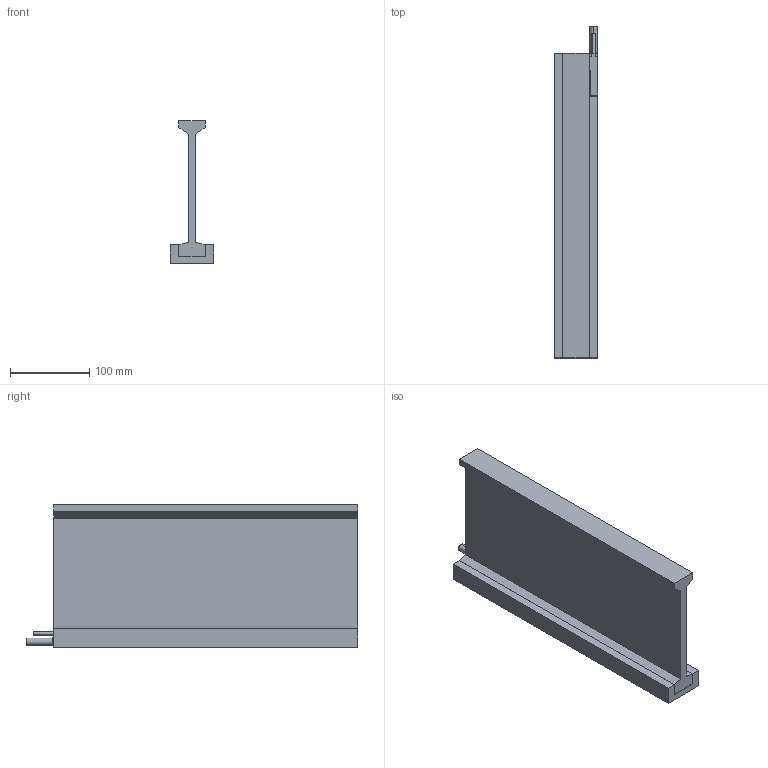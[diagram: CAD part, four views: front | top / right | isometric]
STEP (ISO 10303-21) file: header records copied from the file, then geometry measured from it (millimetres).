
FILE_DESCRIPTION (( 'STEP AP214' ), '1' );
FILE_NAME ('DX140F-C6.STEP', '2021-07-16T04:29:26', ( '' ), ( '' ), 'SwSTEP 2.0', 'SolidWorks 2020', '' );
FILE_SCHEMA (( 'AUTOMOTIVE_DESIGN' ));
Length unit declared in the file: millimetre
Products named in the file (6): DX140FCX01_C6 (CUSTOMER); HEX SHCS M3x0.5x12(S.S)_B18.3.1M - 3 x 0.5 x 12 Hex SHCS -- 12CHX; TIM-PC 8850FT-LV (DX140F)_C6; CBL_PWR_D10; DX140F-C6; DX140FH-X.X-ZZ-00 (CUSTOMER)
Assembly tree (6 placements, depth 2):
  DX140F-C6
    TIM-PC 8850FT-LV (DX140F)_C6
    DX140FCX01_C6 (CUSTOMER)
    HEX SHCS M3x0.5x12(S.S)_B18.3.1M - 3 x 0.5 x 12 Hex SHCS -- 12CHX  x2
    CBL_PWR_D10
    DX140FH-X.X-ZZ-00 (CUSTOMER)
Bounding box: 55 x 420 x 180.6 mm (x, y, z)
Volume: 1194384.6 mm3; surface area: 260155.9 mm2
Topology: 8 solids, 8 shells, 253 faces, 617 edges, 365 vertices
Faces by surface type: plane 116, cylinder 81, cone 50, torus 6
Entity records: 6793 total; most frequent: DIRECTION 1161, CARTESIAN_POINT 1086, ORIENTED_EDGE 1038, EDGE_CURVE 519, AXIS2_PLACEMENT_3D 407, LINE 347, VECTOR 347, VERTEX_POINT 332
